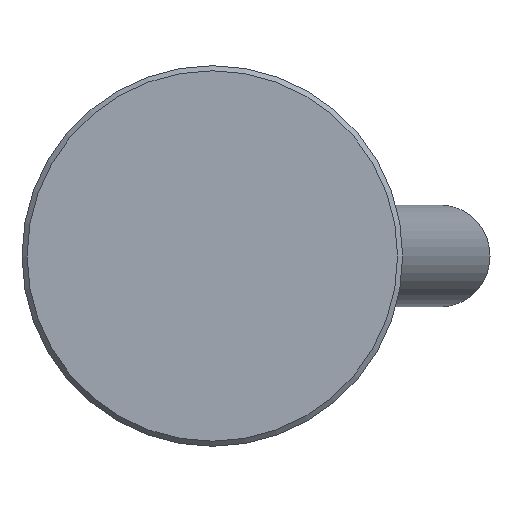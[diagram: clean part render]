
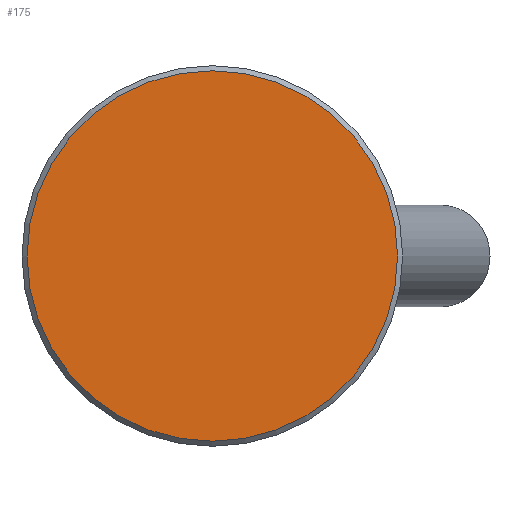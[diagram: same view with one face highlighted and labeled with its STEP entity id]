
A CAD part, front view. The second image highlights one B-rep face of the part: STEP entity #175.
In plain terms, the highlighted planar face has unit normal (0, -1, 0).
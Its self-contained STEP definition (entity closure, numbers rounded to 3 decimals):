
#175 = ADVANCED_FACE( '', ( #349 ), #350, .F. );
#349 = FACE_OUTER_BOUND( '', #549, .T. );
#350 = PLANE( '', #550 );
#549 = EDGE_LOOP( '', ( #804 ) );
#550 = AXIS2_PLACEMENT_3D( '', #805, #806, #807 );
#804 = ORIENTED_EDGE( '', *, *, #1155, .T. );
#805 = CARTESIAN_POINT( '', ( 29.2, 0., 0. ) );
#806 = DIRECTION( '', ( 0., 1., 0. ) );
#807 = DIRECTION( '', ( 0., 0., 1. ) );
#1155 = EDGE_CURVE( '', #1340, #1340, #1341, .T. );
#1340 = VERTEX_POINT( '', #1673 );
#1341 = CIRCLE( '', #1674, 29.2 );
#1673 = CARTESIAN_POINT( '', ( 0., 0., -29.2 ) );
#1674 = AXIS2_PLACEMENT_3D( '', #2041, #2042, #2043 );
#2041 = CARTESIAN_POINT( '', ( 0., 0., 0. ) );
#2042 = DIRECTION( '', ( 0., -1., 0. ) );
#2043 = DIRECTION( '', ( 0., 0., -1. ) );
